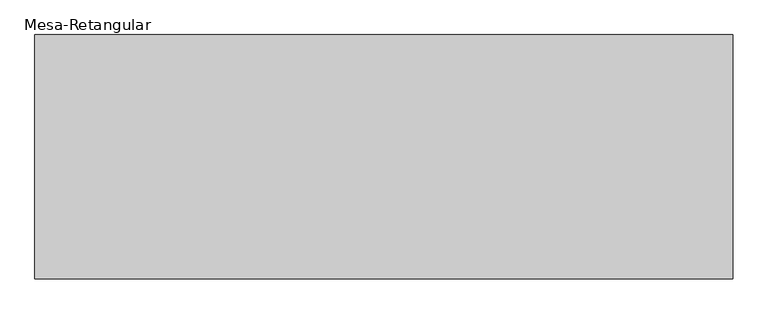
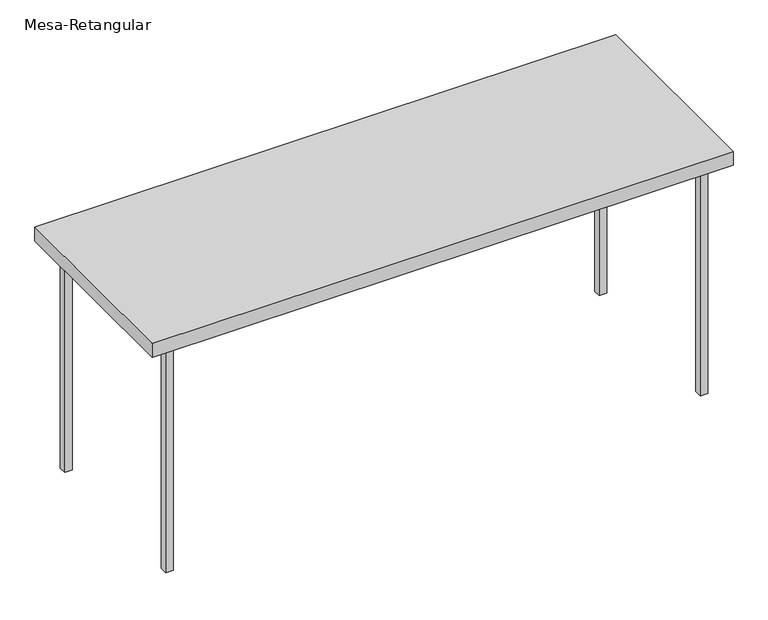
"""IFC4 building model written with IfcOpenShell, lengths in millimetres: furniture geometry, Mesa-Retangular : Mesa aço inox 200x70cm 88AL."""

from ifc_helpers import new_model, si_unit, frame, origin, origin_with_axes, place, context, project, spatial, polyline, outline, extrude, source, transform, mapped, element, save


def mesa_retangular_8d786135(model_context):
    return source(origin(), model_context, "Body", "SweptSolid", [
        extrude(outline(polyline([(-932.8946305, 288.2145104), (-932.8946305, 313.6145104), (-907.4946305, 313.6145104), (-907.4946305, 288.2145104), (-932.8946305, 288.2145104)])), origin_with_axes(), (0.0, 0.0, 1.0), 829.2),
        extrude(outline(polyline([(-932.8946305, -288.2145104), (-907.4946305, -288.2145104), (-907.4946305, -313.6145104), (-932.8946305, -313.6145104), (-932.8946305, -288.2145104)])), origin_with_axes(), (0.0, 0.0, 1.0), 829.2),
        extrude(outline(polyline([(932.8946305, 288.2145104), (907.4946305, 288.2145104), (907.4946305, 313.6145104), (932.8946305, 313.6145104), (932.8946305, 288.2145104)])), origin_with_axes(), (0.0, 0.0, 1.0), 829.2),
        extrude(outline(polyline([(932.8946305, -288.2145104), (932.8946305, -313.6145104), (907.4946305, -313.6145104), (907.4946305, -288.2145104), (932.8946305, -288.2145104)])), origin_with_axes(), (0.0, 0.0, 1.0), 829.2),
        extrude(outline(polyline([(1000.0, 350.0), (1000.0, -350.0), (-1000.0, -350.0), (-1000.0, 350.0), (1000.0, 350.0)])), frame((0.0, 0.0, 829.2), z_axis=(0.0, 0.0, 1.0), x_axis=(1.0, 0.0, 0.0)), (0.0, 0.0, 1.0), 50.8),
    ])


if __name__ == "__main__":
    model = new_model("IFC4")
    model_context = context("Model", 3, world=origin())
    ifc_project = project(units=[si_unit("LENGTHUNIT", "METRE", prefix="MILLI")], contexts=[model_context])
    site = spatial("IfcSite", under=ifc_project)
    building = spatial("IfcBuilding", under=site)
    placement = place(None, origin())
    mesa_retangular_shape = mesa_retangular_8d786135(model_context)
    element("IfcFurniture", 1, ObjectType="Mesa-Retangular : Mesa aço inox 200x70cm 88AL", at=placement, inside=building, context=model_context, shape_type="MappedRepresentation", body=[
        mapped(mesa_retangular_shape, transform((0.0, 0.0, 0.0), x_axis=(1.0, 0.0, 0.0), y_axis=(0.0, 1.0, 0.0), z_axis=(0.0, 0.0, 1.0))),
    ])
    save(model, "model.ifc")
